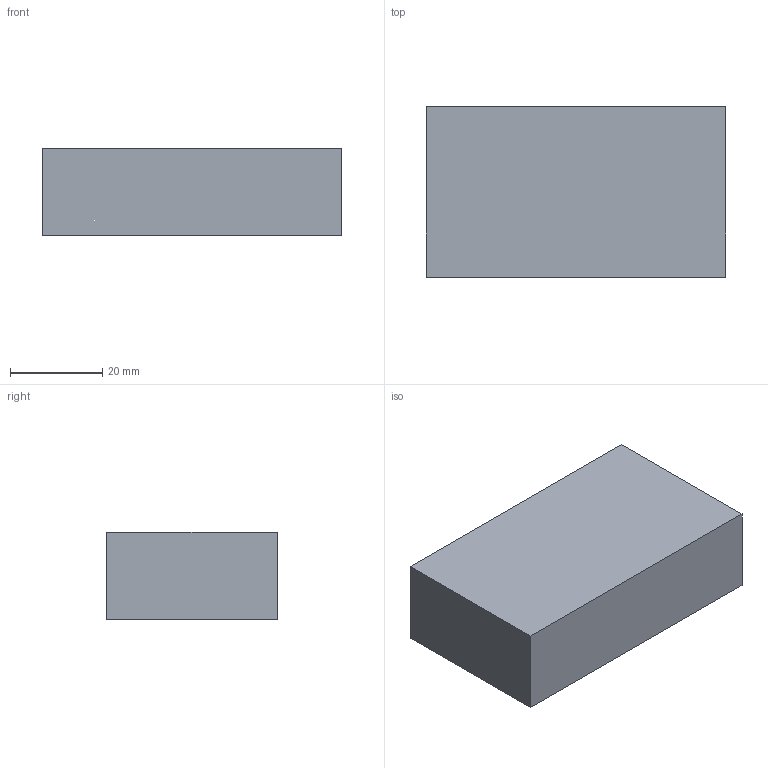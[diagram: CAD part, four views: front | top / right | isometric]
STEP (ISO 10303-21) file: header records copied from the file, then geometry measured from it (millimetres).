
FILE_DESCRIPTION(('Open CASCADE Model'),'2;1');
FILE_NAME('Open CASCADE Shape Model','2026-10-25T05:18:02',('Author'),( 'Open CASCADE'),'Open CASCADE STEP processor 7.9','Open CASCADE 7.9' ,'Unknown');
FILE_SCHEMA(('AUTOMOTIVE_DESIGN { 1 0 10303 214 1 1 1 1 }'));
Length unit declared in the file: millimetre
Products named in the file (1): Open CASCADE STEP translator 7.9 114
Bounding box: 65 x 37 x 19 mm (x, y, z)
Volume: 45695 mm3; surface area: 8686 mm2
Topology: 1 solids, 1 shells, 6 faces, 12 edges, 8 vertices
Faces by surface type: plane 6
Entity records: 322 total; most frequent: CARTESIAN_POINT 51, DIRECTION 50, LINE 36, VECTOR 36, ORIENTED_EDGE 24, PCURVE 24, DEFINITIONAL_REPRESENTATION 24, EDGE_CURVE 12
